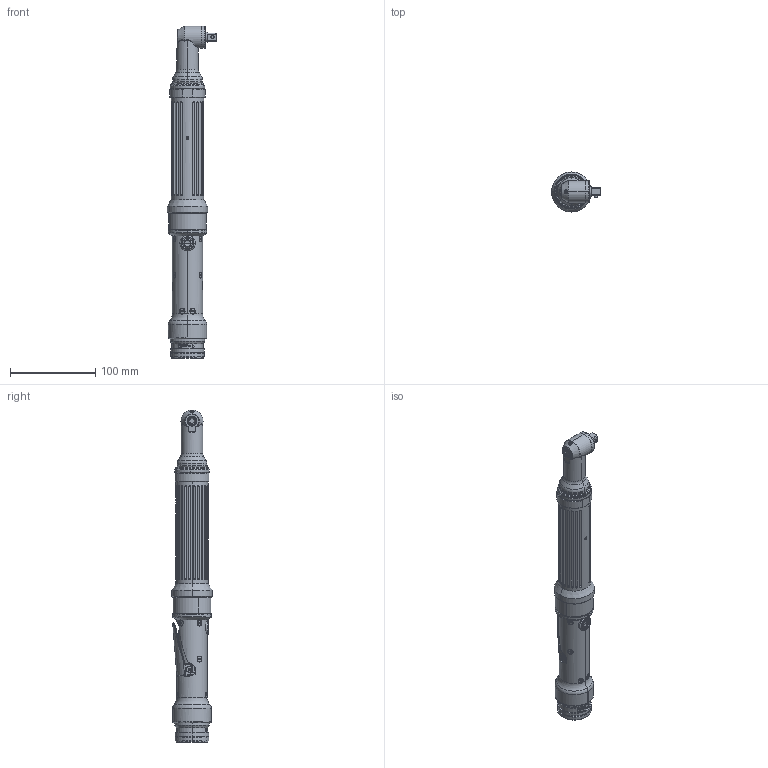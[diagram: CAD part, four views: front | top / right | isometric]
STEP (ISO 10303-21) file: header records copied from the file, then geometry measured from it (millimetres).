
FILE_DESCRIPTION (( 'STEP AP214' ), '1' );
FILE_NAME ('AEN32015C, AEN32025C.STEP', '2016-04-15T00:19:01', ( 'AIMCO' ), ( '' ), 'SwSTEP 2.0', 'SolidWorks 2016', '' );
FILE_SCHEMA (( 'AUTOMOTIVE_DESIGN' ));
Length unit declared in the file: inch
Products named in the file (1): AEN32015C, AEN32025C
Bounding box: 57.54 x 46.99 x 389.38 mm (x, y, z)
Surface area: 77726.3 mm2 (no closed solid volume)
Topology: 0 solids, 94 shells, 994 faces, 3484 edges, 2422 vertices
Faces by surface type: cylinder 234, plane 215, bspline 175, cone 164, torus 160, sphere 46
Entity records: 70028 total; most frequent: CARTESIAN_POINT 30379, ORIENTED_EDGE 5222, DIRECTION 4997, EDGE_CURVE 3400, VERTEX_POINT 2382, AXIS2_PLACEMENT_3D 2004, B_SPLINE_CURVE_WITH_KNOTS 1199, CIRCLE 1184
